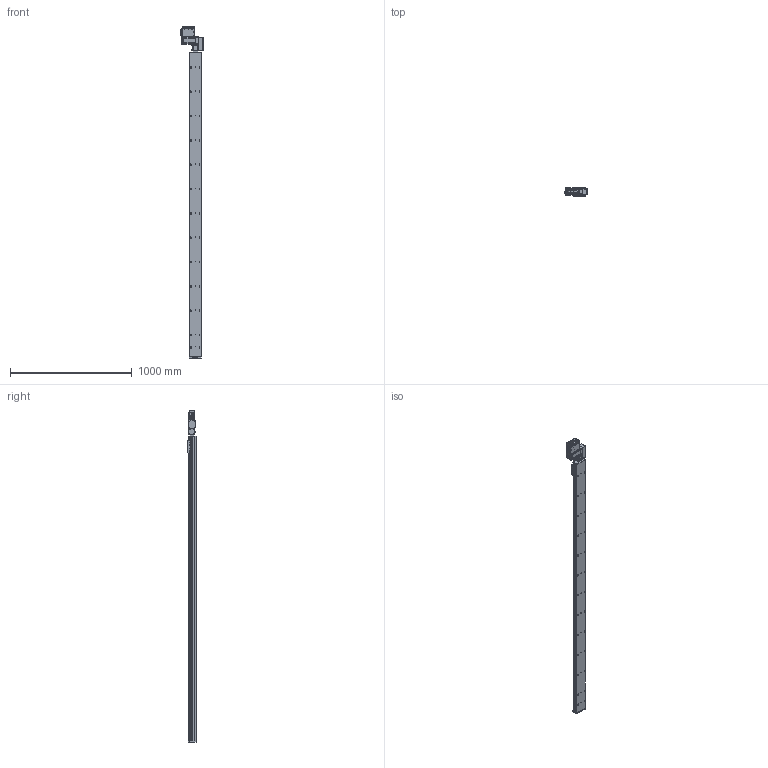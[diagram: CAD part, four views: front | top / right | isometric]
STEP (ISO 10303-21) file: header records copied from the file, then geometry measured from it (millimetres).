
FILE_DESCRIPTION (( 'STEP AP203' ), '1' );
FILE_NAME ('S10 TBN RH S2500.STEP', '2012-06-18T09:34:45', ( 'Conseil Régional Haute-Normandie' ), ( 'Conseil Régional Haute-Normandie' ), 'SwSTEP 2.0', 'SolidWorks 2010', '' );
FILE_SCHEMA (( 'CONFIG_CONTROL_DESIGN' ));
Length unit declared in the file: millimetre
Products named in the file (29): embout; renvoi LH_Default; Assem1_7; Plaque racord_Default; Moteur 60BLDC90A_3; Couvercle_3; Radiateur profil_X2_00E9_X0_ 100x25_3; Colonnette ronde_3; T_X2_00F4_X0_le Arri_X2_00E8_X0_re_5; Cvis M5 L30_Default; vis M5 L5_Default; S10 TBN RH S2500; axe 2500; palette tbn; cache t皻e axe_Default; cache t皻e_Default; plaque de bout s10_Default; T_X2_00F4_X0_le contre le moteur_5; BU41 Carte Alimentation P05_3; Colonnette_3; BU45 Carte d''axe A11_5; T_X2_00F4_X0_le fond_3; Connecteur rond D10 3cts_5; Connecteur rond D12 4cts_5; Sub D 9cts 90_X2_00B_X0__3; T_X2_00F4_X0_le lat_X2_00E9_X0_rale_5; Vis TF 3 torkx_1_1; Vis TF 3 torkx; vis M5 L12_Default
Assembly tree (65 placements, depth 3):
  S10 TBN RH S2500
    plaque de bout s10_Default
    axe 2500
    Cvis M5 L30_Default  x2
    Assem1_7
      Vis TF 3 torkx_1_1  x21
      BU45 Carte d''axe A11_5
      Connecteur rond D10 3cts_5  x2
      T_X2_00F4_X0_le contre le moteur_5
      Colonnette_3  x2
      Sub D 9cts 90_X2_00B_X0__3
      BU41 Carte Alimentation P05_3
      T_X2_00F4_X0_le lat_X2_00E9_X0_rale_5  x2
      Connecteur rond D12 4cts_5
      Radiateur profil_X2_00E9_X0_ 100x25_3
      Couvercle_3
      Moteur 60BLDC90A_3
      T_X2_00F4_X0_le fond_3
      T_X2_00F4_X0_le Arri_X2_00E8_X0_re_5
      Colonnette ronde_3
    Vis TF 3 torkx  x7
    palette tbn
    renvoi LH_Default
    vis M5 L5_Default  x4
    Plaque racord_Default
    cache t皻e axe_Default
    embout
    cache t皻e_Default  x2
    vis M5 L12_Default  x4
Bounding box: 189.8 x 66.75 x 2728.5 mm (x, y, z)
Volume: 13783745.8 mm3; surface area: 1479341.9 mm2
Topology: 64 solids, 64 shells, 2493 faces, 6215 edges, 4023 vertices
Faces by surface type: plane 1165, cylinder 1105, cone 188, bspline 32, torus 3
Entity records: 50570 total; most frequent: CARTESIAN_POINT 9040, DIRECTION 8242, ORIENTED_EDGE 7434, EDGE_CURVE 3717, AXIS2_PLACEMENT_3D 3086, VERTEX_POINT 2429, VECTOR 2070, LINE 2070
